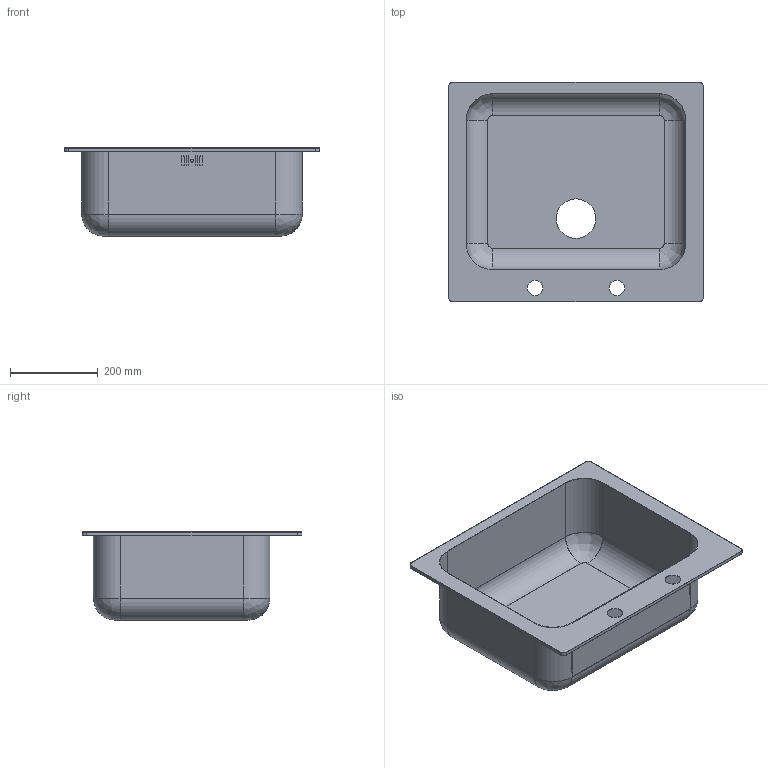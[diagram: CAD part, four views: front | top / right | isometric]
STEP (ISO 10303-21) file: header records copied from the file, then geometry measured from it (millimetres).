
FILE_DESCRIPTION(('CATIA V5 STEP Exchange'),'2;1');
FILE_NAME('C:\Users\linop\Desktop\VS50P3.stp','2018-05-25T14:00:57+00:00',('none'),('none'),'CATIA Version 5-6 Release 2014','CATIA V5 STEP AP203','none');
FILE_SCHEMA(('CONFIG_CONTROL_DESIGN'));
Length unit declared in the file: millimetre
Products named in the file (1): VS50P3
Bounding box: 580 x 500 x 200.9 mm (x, y, z)
Volume: 489739.7 mm3; surface area: 1203212.7 mm2
Topology: 2 solids, 2 shells, 102 faces, 272 edges, 176 vertices
Faces by surface type: cylinder 52, plane 42, revolution 8
Entity records: 3197 total; most frequent: CARTESIAN_POINT 633, ORIENTED_EDGE 544, DIRECTION 444, EDGE_CURVE 272, AXIS2_PLACEMENT_3D 193, VERTEX_POINT 176, VECTOR 160, LINE 160
